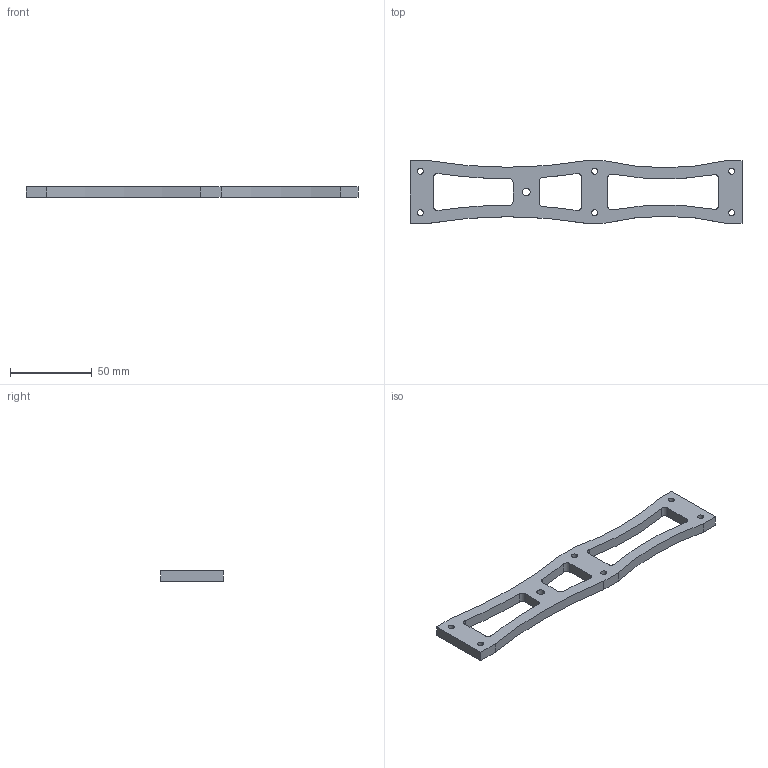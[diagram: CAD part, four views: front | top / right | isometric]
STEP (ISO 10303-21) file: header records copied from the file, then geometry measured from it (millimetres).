
FILE_DESCRIPTION (( 'STEP AP214' ), '1' );
FILE_NAME ('Sidebar.STEP', '2017-08-22T22:03:19', ( 'John' ), ( 'None' ), 'SwSTEP 2.0', 'SolidWorks 2007', '' );
FILE_SCHEMA (( 'AUTOMOTIVE_DESIGN' ));
Length unit declared in the file: inch
Products named in the file (1): Sidebar
Bounding box: 203.2 x 38.1 x 6.35 mm (x, y, z)
Volume: 26184.9 mm3; surface area: 14377.9 mm2
Topology: 1 solids, 1 shells, 52 faces, 150 edges, 100 vertices
Faces by surface type: cylinder 36, plane 16
Entity records: 2073 total; most frequent: DIRECTION 328, CARTESIAN_POINT 303, ORIENTED_EDGE 300, EDGE_CURVE 150, AXIS2_PLACEMENT_3D 125, VERTEX_POINT 100, VECTOR 78, LINE 78
